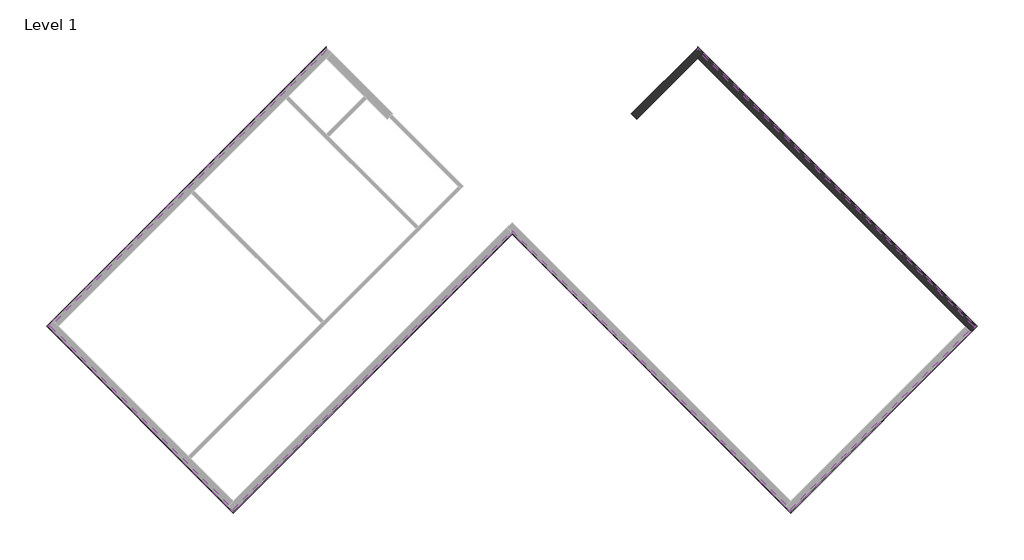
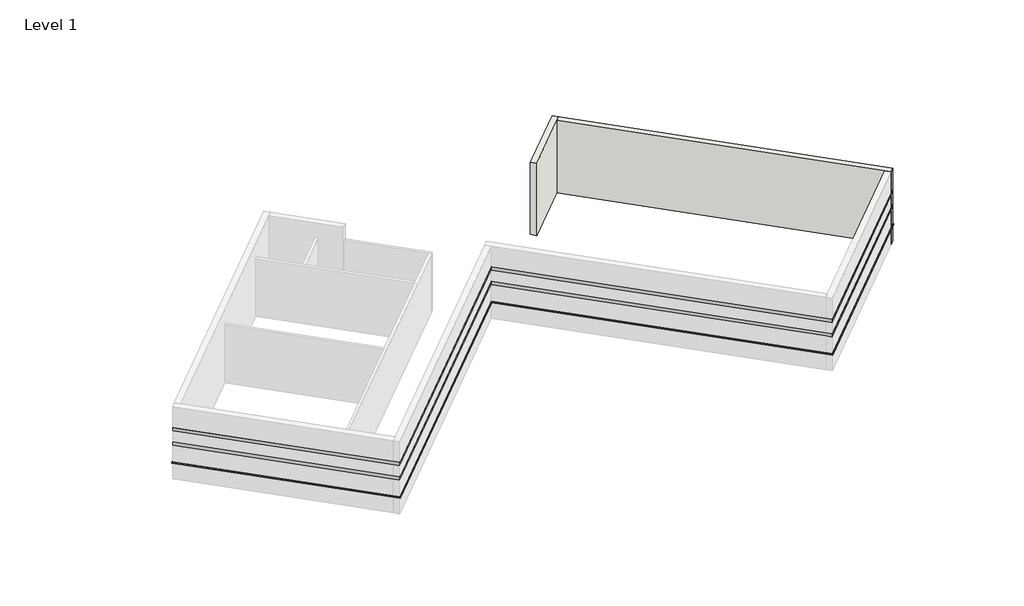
# One storey, part 2 of 2: 18 proxies, 2 walls.
"""IFC4 building model written with IfcOpenShell, lengths in millimetres."""

from ifc_helpers import new_model, si_unit, frame, origin, place, context, project, spatial, polyline, circle_curve, outline, extrude, faceted_brep, element, save
from ifc_brep_helpers import plane_surface, cylinder_surface, revolved_surface, advanced_brep

model = new_model("IFC4")

# Units and contexts
model_context = context("Model", 3, world=origin())
ifc_project = project(units=[si_unit("LENGTHUNIT", "METRE", prefix="MILLI")], contexts=[model_context])

# Site, building, storey
site = spatial("IfcSite", under=ifc_project)
building = spatial("IfcBuilding", under=site)
storey = spatial("IfcBuildingStorey", under=building, Name="Level 1", Elevation=0.0)

# Proxies
placement = place(None, origin())
element("IfcBuildingElementProxy", 1, Name="Wall Sweeps", at=placement, inside=storey, context=model_context, shape_type="Brep", body=[
    faceted_brep([(5753.0175119, 11443.3655905, 1085.85), (5753.0175119, 11573.5793042, 1085.85), (5753.0175119, 11622.9707129, 1041.4), (5753.0175119, 11622.9707129, 1016.0), (5753.0175119, 11443.3655905, 1016.0), (18554.3726125, -1357.9895101, 1085.85), (18554.3726125, -1357.9895101, 1016.0), (18733.9777349, -1357.9895101, 1016.0), (18733.9777349, -1357.9895101, 1041.4), (18684.5863263, -1357.9895101, 1085.85)], [[[0, 1, 2, 3, 4]], [[5, 6, 7, 8, 9]], [[1, 0, 5, 9]], [[2, 1, 9, 8]], [[3, 2, 8, 7]], [[4, 3, 7, 6]], [[0, 4, 6, 5]]]),
])
element("IfcBuildingElementProxy", 2, Name="Wall Sweeps", at=placement, inside=storey, context=model_context, shape_type="Brep", body=[
    faceted_brep([(5753.0175119, 11573.5793042, 2336.8), (5753.0175119, 11573.5793042, 2133.6), (5753.0175119, 11443.3655905, 2133.6), (5753.0175119, 11443.3655905, 2336.8), (18684.5863263, -1357.9895101, 2336.8), (18554.3726125, -1357.9895101, 2336.8), (18554.3726125, -1357.9895101, 2133.6), (18684.5863263, -1357.9895101, 2133.6), (6002.2196193, 11324.3771969, 2336.8), (6002.2196193, 11324.3771969, 2133.6)], [[[0, 1, 2, 3]], [[4, 5, 6, 7]], [[1, 0, 8, 4, 7, 9]], [[2, 1, 9, 7, 6]], [[3, 2, 6, 5]], [[0, 3, 5, 4, 8]]]),
])
element("IfcBuildingElementProxy", 3, Name="Wall Sweeps", at=placement, inside=storey, context=model_context, shape_type="Brep", body=[
    faceted_brep([(5753.0175119, 11573.5793042, 3251.2), (5753.0175119, 11573.5793042, 3048.0), (5753.0175119, 11443.3655905, 3048.0), (5753.0175119, 11443.3655905, 3251.2), (18684.5863263, -1357.9895101, 3251.2), (18554.3726125, -1357.9895101, 3251.2), (18554.3726125, -1357.9895101, 3048.0), (18684.5863263, -1357.9895101, 3048.0), (6002.2196193, 11324.3771969, 3251.2), (6002.2196193, 11324.3771969, 3048.0)], [[[0, 1, 2, 3]], [[4, 5, 6, 7]], [[1, 0, 8, 4, 7, 9]], [[2, 1, 9, 7, 6]], [[3, 2, 6, 5]], [[0, 3, 5, 4, 8]]]),
])
element("IfcBuildingElementProxy", 4, Name="Wall Sweeps", at=placement, inside=storey, context=model_context, shape_type="Brep", body=[
    faceted_brep([(18554.3726125, -1357.9895101, 1085.85), (18684.5863263, -1357.9895101, 1085.85), (18733.9777349, -1357.9895101, 1041.4), (18733.9777349, -1357.9895101, 1016.0), (18554.3726125, -1357.9895101, 1016.0), (10063.54045, -9848.8216726, 1085.85), (10063.54045, -9848.8216726, 1016.0), (10063.54045, -10028.426795, 1016.0), (10063.54045, -10028.426795, 1041.4), (10063.54045, -9979.0353863, 1085.85)], [[[0, 1, 2, 3, 4]], [[5, 6, 7, 8, 9]], [[1, 0, 5, 9]], [[2, 1, 9, 8]], [[3, 2, 8, 7]], [[4, 3, 7, 6]], [[0, 4, 6, 5]]]),
])
element("IfcBuildingElementProxy", 5, Name="Wall Sweeps", at=placement, inside=storey, context=model_context, shape_type="Brep", body=[
    faceted_brep([(18684.5863263, -1357.9895101, 2336.8), (18684.5863263, -1357.9895101, 2133.6), (18554.3726125, -1357.9895101, 2133.6), (18554.3726125, -1357.9895101, 2336.8), (10063.54045, -9979.0353863, 2336.8), (10063.54045, -9848.8216726, 2336.8), (10063.54045, -9848.8216726, 2133.6), (10063.54045, -9979.0353863, 2133.6), (18435.3842189, -1607.1916175, 2336.8), (18435.3842189, -1607.1916175, 2133.6)], [[[0, 1, 2, 3]], [[4, 5, 6, 7]], [[1, 0, 8, 4, 7, 9]], [[2, 1, 9, 7, 6]], [[3, 2, 6, 5]], [[0, 3, 5, 4, 8]]]),
])
element("IfcBuildingElementProxy", 6, Name="Wall Sweeps", at=placement, inside=storey, context=model_context, shape_type="Brep", body=[
    faceted_brep([(18684.5863263, -1357.9895101, 3251.2), (18684.5863263, -1357.9895101, 3048.0), (18554.3726125, -1357.9895101, 3048.0), (18554.3726125, -1357.9895101, 3251.2), (10063.54045, -9979.0353863, 3251.2), (10063.54045, -9848.8216726, 3251.2), (10063.54045, -9848.8216726, 3048.0), (10063.54045, -9979.0353863, 3048.0), (18435.3842189, -1607.1916175, 3251.2), (18435.3842189, -1607.1916175, 3048.0)], [[[0, 1, 2, 3]], [[4, 5, 6, 7]], [[1, 0, 8, 4, 7, 9]], [[2, 1, 9, 7, 6]], [[3, 2, 6, 5]], [[0, 3, 5, 4, 8]]]),
])
element("IfcBuildingElementProxy", 7, Name="Wall Sweeps", at=placement, inside=storey, context=model_context, shape_type="Brep", body=[
    faceted_brep([(10063.54045, -9848.8216726, 1085.85), (10063.54045, -9979.0353863, 1085.85), (10063.54045, -10028.426795, 1041.4), (10063.54045, -10028.426795, 1016.0), (10063.54045, -9848.8216726, 1016.0), (-2868.0283643, 3082.7471418, 1085.85), (-2868.0283643, 3082.7471418, 1016.0), (-2868.0283643, 2903.1420194, 1016.0), (-2868.0283643, 2903.1420194, 1041.4), (-2868.0283643, 2952.533428, 1085.85)], [[[0, 1, 2, 3, 4]], [[5, 6, 7, 8, 9]], [[1, 0, 5, 9]], [[2, 1, 9, 8]], [[3, 2, 8, 7]], [[4, 3, 7, 6]], [[0, 4, 6, 5]]]),
])
element("IfcBuildingElementProxy", 8, Name="Wall Sweeps", at=placement, inside=storey, context=model_context, shape_type="Brep", body=[
    faceted_brep([(10063.54045, -9979.0353863, 2336.8), (10063.54045, -9979.0353863, 2133.6), (10063.54045, -9848.8216726, 2133.6), (10063.54045, -9848.8216726, 2336.8), (-2868.0283643, 2952.533428, 2336.8), (-2868.0283643, 3082.7471418, 2336.8), (-2868.0283643, 3082.7471418, 2133.6), (-2868.0283643, 2952.533428, 2133.6), (9814.3383427, -9729.833279, 2336.8), (9814.3383427, -9729.833279, 2133.6)], [[[0, 1, 2, 3]], [[4, 5, 6, 7]], [[1, 0, 8, 4, 7, 9]], [[2, 1, 9, 7, 6]], [[3, 2, 6, 5]], [[0, 3, 5, 4, 8]]]),
])
element("IfcBuildingElementProxy", 9, Name="Wall Sweeps", at=placement, inside=storey, context=model_context, shape_type="Brep", body=[
    faceted_brep([(10063.54045, -9979.0353863, 3251.2), (10063.54045, -9979.0353863, 3048.0), (10063.54045, -9848.8216726, 3048.0), (10063.54045, -9848.8216726, 3251.2), (-2868.0283643, 2952.533428, 3251.2), (-2868.0283643, 3082.7471418, 3251.2), (-2868.0283643, 3082.7471418, 3048.0), (-2868.0283643, 2952.533428, 3048.0), (9814.3383427, -9729.833279, 3251.2), (9814.3383427, -9729.833279, 3048.0)], [[[0, 1, 2, 3]], [[4, 5, 6, 7]], [[1, 0, 8, 4, 7, 9]], [[2, 1, 9, 7, 6]], [[3, 2, 6, 5]], [[0, 3, 5, 4, 8]]]),
])
element("IfcBuildingElementProxy", 10, Name="Wall Sweeps", at=placement, inside=storey, context=model_context, shape_type="Brep", body=[
    faceted_brep([(-2868.0283643, 3082.7471418, 1085.85), (-2868.0283643, 2952.533428, 1085.85), (-2868.0283643, 2903.1420194, 1041.4), (-2868.0283643, 2903.1420194, 1016.0), (-2868.0283643, 3082.7471418, 1016.0), (-15799.5971786, -9848.8216726, 1085.85), (-15799.5971786, -9848.8216726, 1016.0), (-15799.5971786, -10028.426795, 1016.0), (-15799.5971786, -10028.426795, 1041.4), (-15799.5971786, -9979.0353863, 1085.85)], [[[0, 1, 2, 3, 4]], [[5, 6, 7, 8, 9]], [[1, 0, 5, 9]], [[2, 1, 9, 8]], [[3, 2, 8, 7]], [[4, 3, 7, 6]], [[0, 4, 6, 5]]]),
])
element("IfcBuildingElementProxy", 11, Name="Wall Sweeps", at=placement, inside=storey, context=model_context, shape_type="SweptSolid", body=[
    extrude(outline(polyline([(-2868.0283643, 3082.7471418), (-2868.0283643, 2952.533428), (-15799.5971786, -9979.0353863), (-15799.5971786, -9848.8216726), (-2868.0283643, 3082.7471418)])), frame((0.0, 0.0, 2133.6), z_axis=(0.0, 0.0, 1.0), x_axis=(1.0, 0.0, 0.0)), (0.0, 0.0, 1.0), 203.2),
])
element("IfcBuildingElementProxy", 12, Name="Wall Sweeps", at=placement, inside=storey, context=model_context, shape_type="SweptSolid", body=[
    extrude(outline(polyline([(-2868.0283643, 3082.7471418), (-2868.0283643, 2952.533428), (-15799.5971786, -9979.0353863), (-15799.5971786, -9848.8216726), (-2868.0283643, 3082.7471418)])), frame((0.0, 0.0, 3048.0), z_axis=(0.0, 0.0, 1.0), x_axis=(1.0, 0.0, 0.0)), (0.0, 0.0, 1.0), 203.2),
])
element("IfcBuildingElementProxy", 13, Name="Wall Sweeps", at=placement, inside=storey, context=model_context, shape_type="Brep", body=[
    faceted_brep([(-15799.5971786, -9848.8216726, 1085.85), (-15799.5971786, -9979.0353863, 1085.85), (-15799.5971786, -10028.426795, 1041.4), (-15799.5971786, -10028.426795, 1016.0), (-15799.5971786, -9848.8216726, 1016.0), (-24290.4293411, -1357.9895101, 1085.85), (-24290.4293411, -1357.9895101, 1016.0), (-24470.0344635, -1357.9895101, 1016.0), (-24470.0344635, -1357.9895101, 1041.4), (-24420.6430549, -1357.9895101, 1085.85)], [[[0, 1, 2, 3, 4]], [[5, 6, 7, 8, 9]], [[1, 0, 5, 9]], [[2, 1, 9, 8]], [[3, 2, 8, 7]], [[4, 3, 7, 6]], [[0, 4, 6, 5]]]),
])
element("IfcBuildingElementProxy", 14, Name="Wall Sweeps", at=placement, inside=storey, context=model_context, shape_type="Brep", body=[
    faceted_brep([(-15799.5971786, -9979.0353863, 2336.8), (-15799.5971786, -9979.0353863, 2133.6), (-15799.5971786, -9848.8216726, 2133.6), (-15799.5971786, -9848.8216726, 2336.8), (-24420.6430549, -1357.9895101, 2336.8), (-24290.4293411, -1357.9895101, 2336.8), (-24290.4293411, -1357.9895101, 2133.6), (-24420.6430549, -1357.9895101, 2133.6), (-16048.799286, -9729.833279, 2336.8), (-16048.799286, -9729.833279, 2133.6)], [[[0, 1, 2, 3]], [[4, 5, 6, 7]], [[1, 0, 8, 4, 7, 9]], [[2, 1, 9, 7, 6]], [[3, 2, 6, 5]], [[0, 3, 5, 4, 8]]]),
])
element("IfcBuildingElementProxy", 15, Name="Wall Sweeps", at=placement, inside=storey, context=model_context, shape_type="Brep", body=[
    faceted_brep([(-15799.5971786, -9979.0353863, 3251.2), (-15799.5971786, -9979.0353863, 3048.0), (-15799.5971786, -9848.8216726, 3048.0), (-15799.5971786, -9848.8216726, 3251.2), (-24420.6430549, -1357.9895101, 3251.2), (-24290.4293411, -1357.9895101, 3251.2), (-24290.4293411, -1357.9895101, 3048.0), (-24420.6430549, -1357.9895101, 3048.0), (-16048.799286, -9729.833279, 3251.2), (-16048.799286, -9729.833279, 3048.0)], [[[0, 1, 2, 3]], [[4, 5, 6, 7]], [[1, 0, 8, 4, 7, 9]], [[2, 1, 9, 7, 6]], [[3, 2, 6, 5]], [[0, 3, 5, 4, 8]]]),
])
element("IfcBuildingElementProxy", 16, Name="Wall Sweeps", at=placement, inside=storey, context=model_context, shape_type="Brep", body=[
    faceted_brep([(-24290.4293411, -1357.9895101, 1085.85), (-24420.6430549, -1357.9895101, 1085.85), (-24470.0344635, -1357.9895101, 1041.4), (-24470.0344635, -1357.9895101, 1016.0), (-24290.4293411, -1357.9895101, 1016.0), (-11489.0742405, 11443.3655905, 1085.85), (-11489.0742405, 11443.3655905, 1016.0), (-11489.0742405, 11622.9707129, 1016.0), (-11489.0742405, 11622.9707129, 1041.4), (-11489.0742405, 11573.5793042, 1085.85)], [[[0, 1, 2, 3, 4]], [[5, 6, 7, 8, 9]], [[1, 0, 5, 9]], [[2, 1, 9, 8]], [[3, 2, 8, 7]], [[4, 3, 7, 6]], [[0, 4, 6, 5]]]),
])
element("IfcBuildingElementProxy", 17, Name="Wall Sweeps", at=placement, inside=storey, context=model_context, shape_type="Brep", body=[
    faceted_brep([(-24420.6430549, -1357.9895101, 2336.8), (-24420.6430549, -1357.9895101, 2133.6), (-24290.4293411, -1357.9895101, 2133.6), (-24290.4293411, -1357.9895101, 2336.8), (-11489.0742405, 11573.5793042, 2336.8), (-11489.0742405, 11443.3655905, 2336.8), (-11489.0742405, 11443.3655905, 2133.6), (-11489.0742405, 11573.5793042, 2133.6), (-24171.4409475, -1108.7874027, 2336.8), (-24171.4409475, -1108.7874027, 2133.6)], [[[0, 1, 2, 3]], [[4, 5, 6, 7]], [[1, 0, 8, 4, 7, 9]], [[2, 1, 9, 7, 6]], [[3, 2, 6, 5]], [[0, 3, 5, 4, 8]]]),
])
element("IfcBuildingElementProxy", 18, Name="Wall Sweeps", at=placement, inside=storey, context=model_context, shape_type="Brep", body=[
    faceted_brep([(-24420.6430549, -1357.9895101, 3251.2), (-24420.6430549, -1357.9895101, 3048.0), (-24290.4293411, -1357.9895101, 3048.0), (-24290.4293411, -1357.9895101, 3251.2), (-11489.0742405, 11573.5793042, 3251.2), (-11489.0742405, 11443.3655905, 3251.2), (-11489.0742405, 11443.3655905, 3048.0), (-11489.0742405, 11573.5793042, 3048.0), (-24171.4409475, -1108.7874027, 3251.2), (-24171.4409475, -1108.7874027, 3048.0)], [[[0, 1, 2, 3]], [[4, 5, 6, 7]], [[1, 0, 8, 4, 7, 9]], [[2, 1, 9, 7, 6]], [[3, 2, 6, 5]], [[0, 3, 5, 4, 8]]]),
])

# Walls
element("IfcWall", 19, ObjectType="Exterior - Split Face and CMU on Mtl. Stud", at=placement, inside=storey, context=model_context, shape_type="AdvancedBrep", body=[
    advanced_brep(
    [(2921.9555443, 8244.1131219, 0.0), (5753.0175119, 11075.1750895, 0.0), (6002.2196193, 11324.3771969, 0.0), (6002.2196193, 11324.3771969, 1016.0), (5937.1127624, 11259.27034, 1016.0), (5937.1127624, 11259.27034, 1085.85), (6002.2196193, 11324.3771969, 1085.85), (6002.2196193, 11324.3771969, 2133.6), (5937.1127624, 11259.27034, 2133.6), (5937.1127624, 11259.27034, 2336.8), (6002.2196193, 11324.3771969, 2336.8), (6002.2196193, 11324.3771969, 3048.0), (5937.1127624, 11259.27034, 3048.0), (5937.1127624, 11259.27034, 3251.2), (6002.2196193, 11324.3771969, 3251.2), (6002.2196193, 11324.3771969, 4572.0), (5753.0175119, 11075.1750895, 4572.0), (2921.9555443, 8244.1131219, 4572.0), (2677.2250436, 8497.7868359, 4572.0), (2926.4294954, 8746.9912878, 4572.0), (5753.0175119, 11573.5793042, 4572.0), (5753.0175119, 11573.5793042, 3251.2), (2926.4294954, 8746.9912878, 3251.2), (2861.3220456, 8681.8838379, 3251.2), (2861.3220456, 8681.8838379, 3048.0), (2926.4294954, 8746.9912878, 3048.0), (5753.0175119, 11573.5793042, 3048.0), (5753.0175119, 11573.5793042, 2336.8), (2926.4294954, 8746.9912878, 2336.8), (2861.3220456, 8681.8838379, 2336.8), (2861.3220456, 8681.8838379, 2133.6), (2926.4294954, 8746.9912878, 2133.6), (5753.0175119, 11573.5793042, 2133.6), (5753.0175119, 11573.5793042, 1085.85), (2926.4294954, 8746.9912878, 1085.85), (2861.3220456, 8681.8838379, 1085.85), (2861.3220456, 8681.8838379, 1016.0), (2926.4294954, 8746.9912878, 1016.0), (5753.0175119, 11573.5793042, 1016.0), (5753.0175119, 11573.5793042, 0.0), (2926.4294954, 8746.9912878, 0.0), (2677.2250436, 8497.7868359, 0.0), (5818.1243688, 11508.4724474, 0.0), (2742.2400511, 8432.5881297, 0.0), (5753.0175119, 11443.3655905, 1085.85), (2926.3399919, 8616.6880705, 1085.85), (2926.3399919, 8616.6880705, 1016.0), (5753.0175119, 11443.3655905, 1016.0), (2926.3399919, 8616.6880705, 2133.6), (5753.0175119, 11443.3655905, 2133.6), (2926.3399919, 8616.6880705, 2336.8), (5753.0175119, 11443.3655905, 2336.8), (2926.3399919, 8616.6880705, 3048.0), (5753.0175119, 11443.3655905, 3048.0), (2926.3399919, 8616.6880705, 3251.2), (5753.0175119, 11443.3655905, 3251.2)],
    [
        (0, 1),
        (1, 2),
        (2, 3),
        (3, 4),
        (4, 5),
        (5, 6),
        (6, 7),
        (7, 8),
        (8, 9),
        (9, 10),
        (10, 11),
        (11, 12),
        (12, 13),
        (13, 14),
        (14, 15),
        (15, 16),
        (16, 17),
        (17, 0),
        (18, 19),
        (19, 20),
        (20, 21),
        (21, 22),
        (22, 23),
        (23, 24),
        (24, 25),
        (25, 26),
        (26, 27),
        (27, 28),
        (28, 29),
        (29, 30),
        (30, 31),
        (31, 32),
        (32, 33),
        (33, 34),
        (34, 35),
        (35, 36),
        (36, 37),
        (37, 38),
        (38, 39),
        (39, 40),
        (40, 41),
        (41, 18),
        (15, 20),
        (18, 17, circle_curve(frame((-2868.0283643, 2903.1420194, 4572.0), z_axis=(0.0, 0.0, -1.0), x_axis=(1.0, 0.0, 0.0)), 7877.175)),
        (14, 21),
        (2, 42),
        (42, 39),
        (38, 3),
        (6, 33),
        (32, 7),
        (10, 27),
        (26, 11),
        (41, 43, circle_curve(frame((-2868.0283643, 2903.1420194, 0.0), z_axis=(0.0, 0.0, -1.0), x_axis=(1.0, 0.0, 0.0)), 7877.175)),
        (43, 0, circle_curve(frame((-2868.0283643, 2903.1420194, 0.0), z_axis=(0.0, 0.0, -1.0), x_axis=(1.0, 0.0, 0.0)), 7877.175)),
        (43, 42),
        (44, 45),
        (45, 35, circle_curve(frame((-2868.0283643, 2903.1420194, 1085.85), z_axis=(0.0, 0.0, 1.0), x_axis=(-0.7040995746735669, 0.7101012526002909, 0.0)), 8137.525)),
        (5, 44),
        (46, 47),
        (47, 4),
        (36, 46, circle_curve(frame((-2868.0283643, 2903.1420194, 1016.0), z_axis=(0.0, 0.0, -1.0), x_axis=(-0.7040995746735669, 0.7101012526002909, 0.0)), 8137.525)),
        (45, 46),
        (44, 47),
        (48, 49),
        (49, 8),
        (30, 48, circle_curve(frame((-2868.0283643, 2903.1420194, 2133.6), z_axis=(0.0, 0.0, -1.0), x_axis=(-0.7040995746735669, 0.7101012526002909, 0.0)), 8137.525)),
        (50, 48),
        (29, 50, circle_curve(frame((-2868.0283643, 2903.1420194, 2336.8), z_axis=(0.0, 0.0, -1.0), x_axis=(-0.7040995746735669, 0.7101012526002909, 0.0)), 8137.525)),
        (51, 50),
        (9, 51),
        (51, 49),
        (52, 53),
        (53, 12),
        (24, 52, circle_curve(frame((-2868.0283643, 2903.1420194, 3048.0), z_axis=(0.0, 0.0, -1.0), x_axis=(-0.7040995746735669, 0.7101012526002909, 0.0)), 8137.525)),
        (54, 52),
        (23, 54, circle_curve(frame((-2868.0283643, 2903.1420194, 3251.2), z_axis=(0.0, 0.0, -1.0), x_axis=(-0.7040995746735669, 0.7101012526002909, 0.0)), 8137.525)),
        (55, 54),
        (13, 55),
        (55, 53),
    ],
    [
        plane_surface(frame((2984.8535626, 8307.0111402, 0.0), z_axis=(0.707106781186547, -0.7071067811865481, 0.0), x_axis=(0.7071067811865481, 0.707106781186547, 0.0))),
        plane_surface(frame((2735.6514552, 8556.2132476, 0.0), z_axis=(-0.707106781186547, 0.7071067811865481, 0.0), x_axis=(-0.7071067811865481, -0.707106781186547, 0.0))),
        plane_surface(frame((5877.6185656, 11199.7761432, 4572.0), z_axis=(0.0, 0.0, 1.0), x_axis=(-0.707106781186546, 0.7071067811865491, 0.0))),
        plane_surface(frame((5753.0175119, 11573.5793042, 0.0), z_axis=(0.7071067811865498, 0.7071067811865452, 0.0), x_axis=(-0.7071067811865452, 0.7071067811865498, 0.0))),
        revolved_surface(polyline([(5009.146635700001, 2903.1420194, 0.0), (5009.146635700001, 2903.1420194, 4572.0)]), (-2868.0283643, 2903.1420194, 0.0), (0.0, 0.0, -1.0)),
        plane_surface(frame((3050.2065213, 8372.3640989, 0.0), z_axis=(0.0, 0.0, -1.0000000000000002), x_axis=(-0.7071067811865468, 0.7071067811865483, 0.0))),
        plane_surface(frame((0.0, 0.0, 0.0), z_axis=(0.0, 0.0, -1.0), x_axis=(1.0, 0.0, 0.0))),
        plane_surface(frame((-2868.0283643, 2903.1420194, 1085.85), z_axis=(0.0, 0.0, -1.0), x_axis=(-0.7040995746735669, 0.7101012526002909, 0.0))),
        plane_surface(frame((-2868.0283643, 2903.1420194, 1016.0), z_axis=(0.0, 0.0, 1.0), x_axis=(-0.7040995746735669, 0.7101012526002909, 0.0))),
        cylinder_surface(frame((-2868.0283643, 2903.1420194, 1016.0), z_axis=(0.0, 0.0, -1.0), x_axis=(-0.7040995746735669, 0.7101012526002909, 0.0)), 8137.525),
        plane_surface(frame((2926.3399919, 8616.6880705, 1016.0), z_axis=(-0.7071067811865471, 0.707106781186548, 0.0), x_axis=(0.707106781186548, 0.7071067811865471, 0.0))),
        plane_surface(frame((5753.0175119, 11443.3655905, 1016.0), z_axis=(0.7071067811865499, 0.7071067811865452, 0.0), x_axis=(0.7071067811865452, -0.7071067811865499, 0.0))),
        plane_surface(frame((-2868.0283643, 2903.1420194, 2133.6), z_axis=(0.0, 0.0, 1.0), x_axis=(-0.7040995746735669, 0.7101012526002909, 0.0))),
        cylinder_surface(frame((-2868.0283643, 2903.1420194, 2133.6), z_axis=(0.0, 0.0, -1.0), x_axis=(-0.7040995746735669, 0.7101012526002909, 0.0)), 8137.525),
        plane_surface(frame((-2868.0283643, 2903.1420194, 2336.8), z_axis=(0.0, 0.0, -1.0), x_axis=(-0.7040995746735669, 0.7101012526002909, 0.0))),
        plane_surface(frame((2926.3399919, 8616.6880705, 2133.6), z_axis=(-0.7071067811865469, 0.7071067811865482, 0.0), x_axis=(0.7071067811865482, 0.7071067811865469, 0.0))),
        plane_surface(frame((5753.0175119, 11443.3655905, 2133.6), z_axis=(0.7071067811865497, 0.7071067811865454, 0.0), x_axis=(0.7071067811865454, -0.7071067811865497, 0.0))),
        plane_surface(frame((-2868.0283643, 2903.1420194, 3048.0), z_axis=(0.0, 0.0, 1.0), x_axis=(-0.7040995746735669, 0.7101012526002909, 0.0))),
        cylinder_surface(frame((-2868.0283643, 2903.1420194, 3048.0), z_axis=(0.0, 0.0, -1.0), x_axis=(-0.7040995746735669, 0.7101012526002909, 0.0)), 8137.525),
        plane_surface(frame((-2868.0283643, 2903.1420194, 3251.2), z_axis=(0.0, 0.0, -1.0), x_axis=(-0.7040995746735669, 0.7101012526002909, 0.0))),
        plane_surface(frame((2926.3399919, 8616.6880705, 3048.0), z_axis=(-0.7071067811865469, 0.7071067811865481, 0.0), x_axis=(0.7071067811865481, 0.7071067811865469, 0.0))),
        plane_surface(frame((5753.0175119, 11443.3655905, 3048.0), z_axis=(0.7071067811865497, 0.7071067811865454, 0.0), x_axis=(0.7071067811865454, -0.7071067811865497, 0.0))),
    ],
    [
        (0, [[1, 2, 3, 4, 5, 6, 7, 8, 9, 10, 11, 12, 13, 14, 15, 16, 17, 18]]),
        (1, [[19, 20, 21, 22, 23, 24, 25, 26, 27, 28, 29, 30, 31, 32, 33, 34, 35, 36, 37, 38, 39, 40, 41, 42]]),
        (2, [[-17, -16, 43, -20, -19, 44]]),
        (3, [[-43, -15, 45, -21]]),
        (3, [[46, 47, -39, 48, -3]]),
        (3, [[49, -33, 50, -7]]),
        (3, [[51, -27, 52, -11]]),
        (4, [[-18, -44, -42, 53, 54]]),
        (5, [[-2, -1, -54, 55, -46]]),
        (6, [[-53, -41, -40, -47, -55]]),
        (7, [[56, 57, -35, -34, -49, -6, 58]]),
        (8, [[59, 60, -4, -48, -38, -37, 61]]),
        (9, [[62, -61, -36, -57]]),
        (10, [[-56, 63, -59, -62]]),
        (11, [[-63, -58, -5, -60]]),
        (12, [[64, 65, -8, -50, -32, -31, 66]]),
        (13, [[67, -66, -30, 68]]),
        (14, [[69, -68, -29, -28, -51, -10, 70]]),
        (15, [[-64, -67, -69, 71]]),
        (16, [[-71, -70, -9, -65]]),
        (17, [[72, 73, -12, -52, -26, -25, 74]]),
        (18, [[75, -74, -24, 76]]),
        (19, [[77, -76, -23, -22, -45, -14, 78]]),
        (20, [[-72, -75, -77, 79]]),
        (21, [[-79, -78, -13, -73]]),
    ],
),
])
element("IfcWall", 20, ObjectType="Exterior - Split Face and CMU on Mtl. Stud", at=placement, inside=storey, context=model_context, shape_type="Brep", body=[
    faceted_brep([(5753.0175119, 11075.1750895, 0.0), (18186.1821115, -1357.9895101, 0.0), (18435.3842189, -1607.1916175, 0.0), (18435.3842189, -1607.1916175, 1016.0), (18370.277362, -1542.0847606, 1016.0), (18370.277362, -1542.0847606, 1085.85), (18435.3842189, -1607.1916175, 1085.85), (18435.3842189, -1607.1916175, 2133.6), (18370.277362, -1542.0847606, 2133.6), (18370.277362, -1542.0847606, 2336.8), (18435.3842189, -1607.1916175, 2336.8), (18435.3842189, -1607.1916175, 3048.0), (18370.277362, -1542.0847606, 3048.0), (18370.277362, -1542.0847606, 3251.2), (18435.3842189, -1607.1916175, 3251.2), (18435.3842189, -1607.1916175, 4572.0), (18186.1821115, -1357.9895101, 4572.0), (5753.0175119, 11075.1750895, 4572.0), (6002.2196193, 11324.3771969, 4572.0), (18684.5863263, -1357.9895101, 4572.0), (18684.5863263, -1357.9895101, 3251.2), (6002.2196193, 11324.3771969, 3251.2), (18684.5863263, -1357.9895101, 0.0), (6002.2196193, 11324.3771969, 0.0), (6002.2196193, 11324.3771969, 1016.0), (18684.5863263, -1357.9895101, 1016.0), (18684.5863263, -1357.9895101, 1085.85), (6002.2196193, 11324.3771969, 1085.85), (6002.2196193, 11324.3771969, 2133.6), (18684.5863263, -1357.9895101, 2133.6), (18684.5863263, -1357.9895101, 2336.8), (6002.2196193, 11324.3771969, 2336.8), (6002.2196193, 11324.3771969, 3048.0), (18684.5863263, -1357.9895101, 3048.0), (18619.4794694, -1423.096367, 0.0), (5937.1127624, 11259.27034, 3251.2), (5937.1127624, 11259.27034, 3048.0), (5937.1127624, 11259.27034, 2336.8), (5937.1127624, 11259.27034, 2133.6), (5937.1127624, 11259.27034, 1085.85), (5937.1127624, 11259.27034, 1016.0), (5937.1127624, 11259.27034, 0.0), (18554.3726125, -1357.9895101, 1085.85), (18554.3726125, -1357.9895101, 1016.0), (18554.3726125, -1357.9895101, 2133.6), (18554.3726125, -1357.9895101, 2336.8), (18554.3726125, -1357.9895101, 3048.0), (18554.3726125, -1357.9895101, 3251.2)], [[[0, 1, 2, 3, 4, 5, 6, 7, 8, 9, 10, 11, 12, 13, 14, 15, 16, 17]], [[18, 19, 20, 21]], [[22, 23, 24, 25]], [[26, 27, 28, 29]], [[30, 31, 32, 33]], [[17, 16, 15, 19, 18]], [[19, 15, 14, 20]], [[2, 34, 22, 25, 3]], [[6, 26, 29, 7]], [[10, 30, 33, 11]], [[0, 17, 18, 21, 35, 36, 32, 31, 37, 38, 28, 27, 39, 40, 24, 23, 41]], [[2, 1, 0, 41, 34]], [[41, 23, 22, 34]], [[5, 42, 39, 27, 26, 6]], [[40, 43, 4, 3, 25, 24]], [[42, 43, 40, 39]], [[43, 42, 5, 4]], [[38, 44, 8, 7, 29, 28]], [[9, 45, 37, 31, 30, 10]], [[45, 44, 38, 37]], [[44, 45, 9, 8]], [[36, 46, 12, 11, 33, 32]], [[13, 47, 35, 21, 20, 14]], [[47, 46, 36, 35]], [[46, 47, 13, 12]]]),
])

save(model, "model.ifc")
